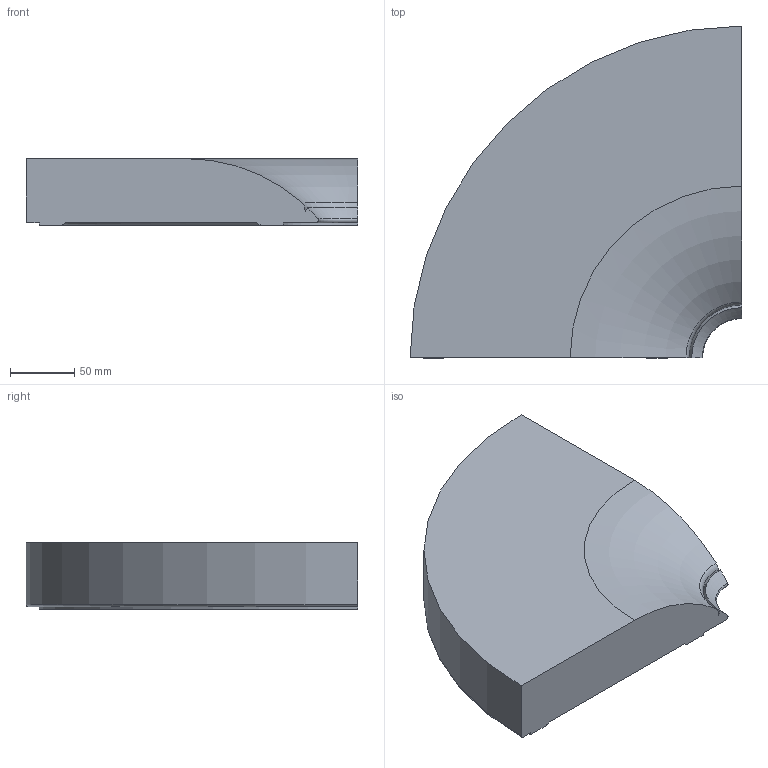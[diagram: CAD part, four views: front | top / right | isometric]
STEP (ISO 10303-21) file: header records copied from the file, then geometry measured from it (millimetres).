
FILE_DESCRIPTION(/* description */ ('Unknown'),/* implementation_level */ '2;1');
FILE_NAME(/* name */ '3D_Footsie-Slim_Corner90deg',/* time_stamp */ '2024-01-11T10:07:16+01:00',/* author */ ('Unknown'),/* organization */ ('Unknown'),/* preprocessor_version */ 'ST-DEVELOPER v18.104',/* originating_system */ 'Solid Edge',/* authorisation */ 'Unknown');
FILE_SCHEMA (('AUTOMOTIVE_DESIGN {1 0 10303 214 3 1 1}'));
Length unit declared in the file: millimetre
Products named in the file (1): 3D_Footsie-Slim_Corner90deg
Bounding box: 258.82 x 258.82 x 52 mm (x, y, z)
Volume: 2480740.7 mm3; surface area: 146545.7 mm2
Topology: 1 solids, 1 shells, 20 faces, 54 edges, 36 vertices
Faces by surface type: plane 8, torus 7, cylinder 3, cone 2
Entity records: 680 total; most frequent: DIRECTION 128, CARTESIAN_POINT 111, ORIENTED_EDGE 108, EDGE_CURVE 54, AXIS2_PLACEMENT_3D 53, VERTEX_POINT 36, CIRCLE 32, LINE 22
